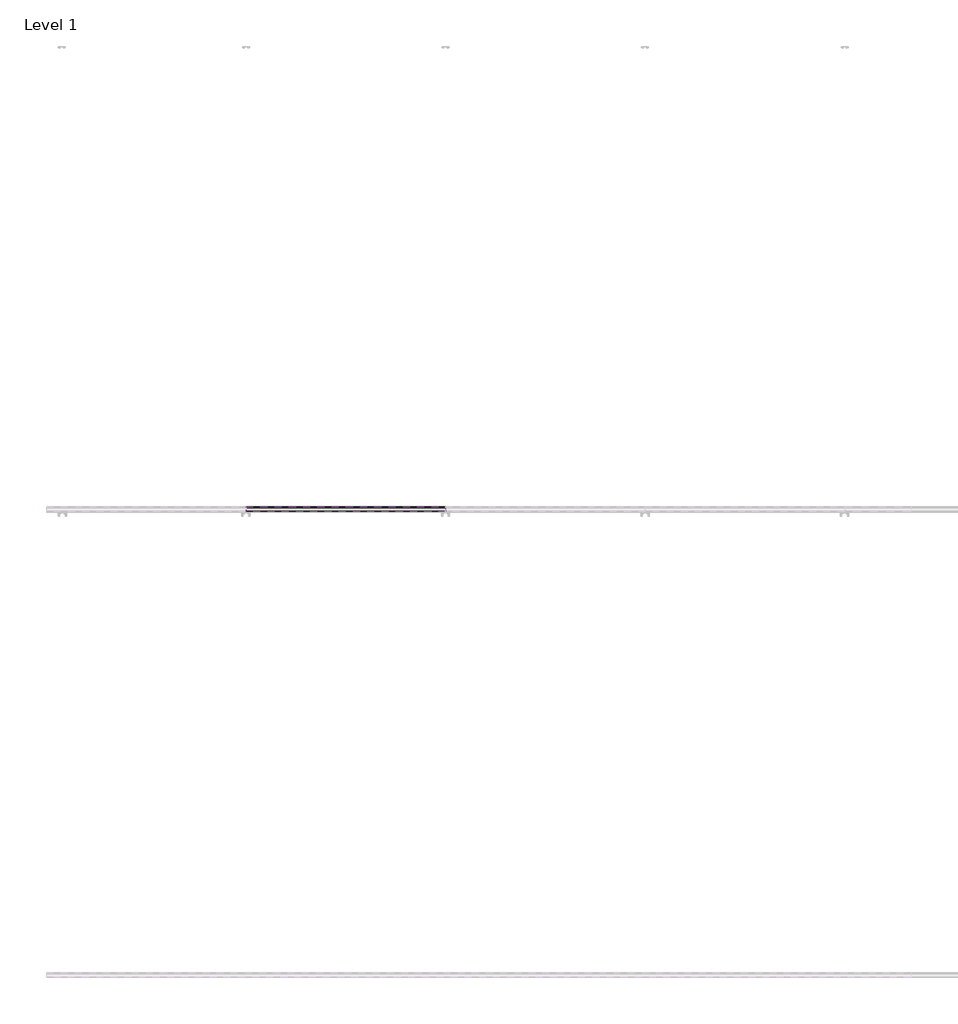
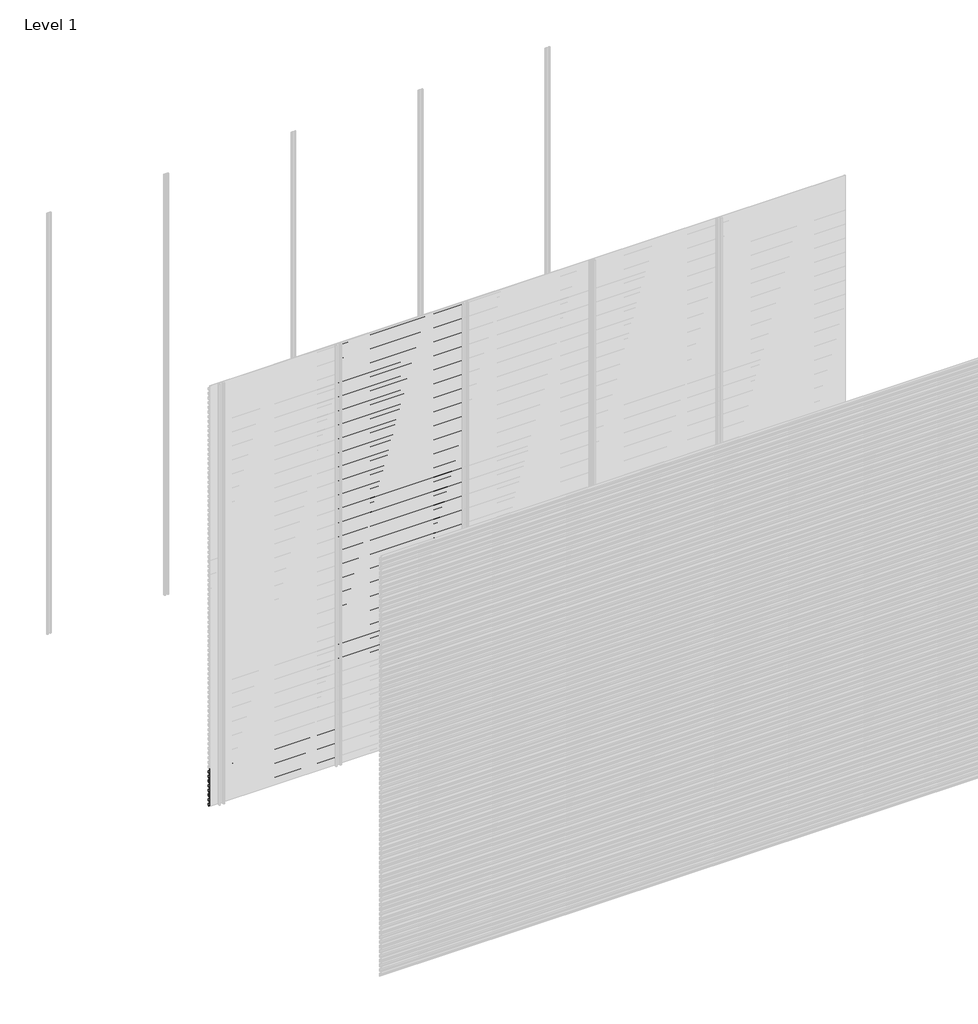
# One storey, part 81 of 96: 77 proxies.
"""IFC4 building model written with IfcOpenShell, lengths in millimetres."""

import ifcopenshell
import ifcopenshell.guid

model = None  # the IFC model being written
_history = None  # IfcOwnerHistory: only IFC2X3 demands one
_inside = {}  # id of a spatial element -> (the spatial element, [elements in it])
_under = {}  # id of a project, library or spatial element -> (it, [spatial elements below it])
_declared = {}  # id of a project -> (the project, [libraries it declares])
_typed = {}  # id of a type object -> (the type object, [elements of that type])
_made_of = {}  # id of a material, layer set ... -> (it, [elements and type objects made of it])


def new_model(schema):
    """Start an empty IFC model of exactly this schema.

    Asked for "IFC4X3", IfcOpenShell would pick the latest addendum, in which some entities
    have other attributes; the version numbers below select the first issue.
    IFC2X3 requires an IfcOwnerHistory on every rooted entity: one is made here for all.
    """
    global model, _history
    if schema == "IFC4X3":
        model = ifcopenshell.file(schema_version=(4, 3, 0, 0))
    else:
        model = ifcopenshell.file(schema=schema)
    _inside.clear()
    _under.clear()
    _declared.clear()
    _typed.clear()
    _made_of.clear()
    _history = None
    if model.schema == "IFC2X3":
        org = make("IfcOrganization", Name="unknown")
        user = make(
            "IfcPersonAndOrganization",
            ThePerson=make("IfcPerson", FamilyName="unknown"),
            TheOrganization=org,
        )
        app = make(
            "IfcApplication",
            ApplicationDeveloper=org,
            Version="unknown",
            ApplicationFullName="unknown",
            ApplicationIdentifier="unknown",
        )
        _history = make(
            "IfcOwnerHistory",
            OwningUser=user,
            OwningApplication=app,
            ChangeAction="ADDED",
            CreationDate=0,
        )
    return model


def make(cls, **values):
    """One entity of the class cls with the attributes given. An attribute that is None is left unset."""
    return model.create_entity(
        cls, **{name: value for name, value in values.items() if value is not None}
    )


def rooted(cls, **values):
    """An entity with a GlobalId (a new one), such as an element, a storey or a relation."""
    return make(cls, GlobalId=ifcopenshell.guid.new(), OwnerHistory=_history, **values)


def si_unit(unit_type, name, prefix=None):
    """IfcSIUnit, for example si_unit("LENGTHUNIT", "METRE", prefix="MILLI")."""
    return make("IfcSIUnit", UnitType=unit_type, Prefix=prefix, Name=name)


def assignment(units):
    """IfcUnitAssignment: the units of a project."""
    return None if units is None else make("IfcUnitAssignment", Units=units)


def point(xyz):
    """IfcCartesianPoint."""
    return None if xyz is None else make("IfcCartesianPoint", Coordinates=xyz)


def direction(xyz):
    """IfcDirection."""
    return None if xyz is None else make("IfcDirection", DirectionRatios=xyz)


def frame(location, z_axis=None, x_axis=None):
    """IfcAxis2Placement3D, a coordinate frame: its origin and axes. An axis left out is left unset."""
    return make(
        "IfcAxis2Placement3D",
        Location=point(location),
        Axis=direction(z_axis),
        RefDirection=direction(x_axis),
    )


def origin():
    """The frame at (0, 0, 0) with its axes left unset."""
    return frame((0.0, 0.0, 0.0))


def place(relative_to, where):
    """IfcLocalPlacement: puts the frame where relative to a parent placement (None: the world)."""
    return make(
        "IfcLocalPlacement", PlacementRelTo=relative_to, RelativePlacement=where
    )


def context(
    kind, dimensions, precision=None, world=None, true_north=None, identifier=None
):
    """IfcGeometricRepresentationContext, for example the 3D "Model" context."""
    return make(
        "IfcGeometricRepresentationContext",
        ContextIdentifier=identifier,
        ContextType=kind,
        CoordinateSpaceDimension=dimensions,
        Precision=precision,
        WorldCoordinateSystem=world,
        TrueNorth=true_north,
    )


def project(units=None, contexts=None):
    """IfcProject with its units and contexts."""
    return rooted(
        "IfcProject",
        Name="project",
        RepresentationContexts=contexts,
        UnitsInContext=assignment(units),
    )


def spatial(cls, under=None, at=None, **own):
    """A site, building, storey or space (cls), placed at a placement, below another one or the project."""
    s = rooted(cls, ObjectPlacement=at, **own)
    if under is not None:
        _under.setdefault(under.id(), (under, []))[1].append(s)
    return s


def polyline(points):
    """IfcPolyline through the points."""
    return make("IfcPolyline", Points=[point(p) for p in points])


def outline(outer, holes=None, kind="AREA"):
    """IfcArbitraryClosedProfileDef: a profile drawn as a closed curve; with holes, ...WithVoids."""
    if holes is None:
        return make("IfcArbitraryClosedProfileDef", ProfileType=kind, OuterCurve=outer)
    return make(
        "IfcArbitraryProfileDefWithVoids",
        ProfileType=kind,
        OuterCurve=outer,
        InnerCurves=holes,
    )


def extrude(swept, where, along, depth):
    """IfcExtrudedAreaSolid: the profile swept, set in the frame where, extruded along a direction by depth."""
    return make(
        "IfcExtrudedAreaSolid",
        SweptArea=swept,
        Position=where,
        ExtrudedDirection=direction(along),
        Depth=depth,
    )


def shape(context_of_items, identifier, shape_type, items):
    """IfcShapeRepresentation: the items that make up one representation, for example the "Body"."""
    return make(
        "IfcShapeRepresentation",
        ContextOfItems=context_of_items,
        RepresentationIdentifier=identifier,
        RepresentationType=shape_type,
        Items=items,
    )


def made_of(thing, what):
    """Note that an element or type object is made of a material, layer set ...; save() writes the relation."""
    if what is not None:
        _made_of.setdefault(what.id(), (what, []))[1].append(thing)
    return thing


def element(
    cls,
    number,
    at=None,
    inside=None,
    cuts=None,
    type_object=None,
    material=None,
    context=None,
    identifier="Body",
    shape_type=None,
    held_by="IfcProductDefinitionShape",
    body=None,
    shapes=None,
    **own,
):
    """One element of the class cls, such as IfcWall. Its Tag is "e" and its number.

    at: its placement. inside: the storey or other place that contains it. cuts: it is an
    opening in that element (IfcRelVoidsElement). A single representation is given by context,
    identifier, shape_type and body (its items); several are given by shapes. held_by: the class
    of the entity that holds the representations. save() writes the other relations.
    """
    e = rooted(cls, Tag="e%d" % number, ObjectPlacement=at, **own)
    if body is not None:
        shapes = [shape(context, identifier, shape_type, body)]
    if shapes is not None:
        e.Representation = make(held_by, Representations=shapes)
    if inside is not None:
        _inside.setdefault(inside.id(), (inside, []))[1].append(e)
    if cuts is not None:
        rooted(
            "IfcRelVoidsElement", RelatingBuildingElement=cuts, RelatedOpeningElement=e
        )
    if type_object is not None:
        _typed.setdefault(type_object.id(), (type_object, []))[1].append(e)
    return made_of(e, material)


def aggregate(whole, parts):
    """IfcRelAggregates: a whole, such as a stair, and the parts it consists of."""
    return rooted("IfcRelAggregates", RelatingObject=whole, RelatedObjects=parts)


def save(model, path):
    """Write the relations noted so far, then the file.

    IfcRelAggregates (storeys below a building ...), IfcRelContainedInSpatialStructure (elements
    in a storey), IfcRelDefinesByType, IfcRelAssociatesMaterial and IfcRelDeclares: one each for
    every whole, place, type object, material and project.
    """
    for whole, parts in _under.values():
        aggregate(whole, parts)
    for where, things in _inside.values():
        rooted(
            "IfcRelContainedInSpatialStructure",
            RelatedElements=things,
            RelatingStructure=where,
        )
    for kind, things in _typed.values():
        rooted("IfcRelDefinesByType", RelatedObjects=things, RelatingType=kind)
    for what, things in _made_of.values():
        rooted("IfcRelAssociatesMaterial", RelatedObjects=things, RelatingMaterial=what)
    for by, libraries in _declared.values():
        rooted("IfcRelDeclares", RelatingContext=by, RelatedDefinitions=libraries)
    model.write(path)


model = new_model("IFC4")

# Units and contexts
model_context = context("Model", 3, world=origin())
ifc_project = project(units=[si_unit("LENGTHUNIT", "METRE", prefix="MILLI")], contexts=[model_context])

# Site, building, storey
site = spatial("IfcSite", under=ifc_project)
building = spatial("IfcBuilding", under=site)
storey = spatial("IfcBuildingStorey", under=building, Name="Level 1", Elevation=0.0)

# Proxies
placement = place(None, origin())
element("IfcBuildingElementProxy", 1, Name="Wall Sweeps", at=placement, inside=storey, context=model_context, shape_type="SweptSolid", body=[
    extrude(outline(polyline([(-5977.6, 241.1655033), (-5977.6, 226.8779188), (-5982.4114965, 224.1), (-5982.4114965, 225.3701706), (-5978.85, 227.4264016), (-5978.85, 240.4437382), (-5998.0, 251.5000799), (-5998.0, 266.4), (-5996.75, 266.4), (-5996.75, 252.2217609), (-5977.6, 241.1655033)])), frame((0.0, 0.0, 0.0), z_axis=(1.0, 0.0, 0.0), x_axis=(0.0, 1.0, 0.0)), (0.0, 0.0, 1.0), 857.1428571),
])
element("IfcBuildingElementProxy", 2, Name="Wall Sweeps", at=placement, inside=storey, context=model_context, shape_type="SweptSolid", body=[
    extrude(outline(polyline([(-5977.6, 207.8655033), (-5977.6, 193.5779188), (-5982.4114965, 190.8), (-5982.4114965, 192.0701706), (-5978.85, 194.1264016), (-5978.85, 207.1437382), (-5998.0, 218.2000799), (-5998.0, 233.1), (-5996.75, 233.1), (-5996.75, 218.9217609), (-5977.6, 207.8655033)])), frame((0.0, 0.0, 0.0), z_axis=(1.0, 0.0, 0.0), x_axis=(0.0, 1.0, 0.0)), (0.0, 0.0, 1.0), 857.1428571),
])
element("IfcBuildingElementProxy", 3, Name="Wall Sweeps", at=placement, inside=storey, context=model_context, shape_type="SweptSolid", body=[
    extrude(outline(polyline([(-5977.6, 174.5655033), (-5977.6, 160.2779188), (-5982.4114965, 157.5), (-5982.4114965, 158.7701706), (-5978.85, 160.8264016), (-5978.85, 173.8437382), (-5998.0, 184.9000799), (-5998.0, 199.8), (-5996.75, 199.8), (-5996.75, 185.6217609), (-5977.6, 174.5655033)])), frame((0.0, 0.0, 0.0), z_axis=(1.0, 0.0, 0.0), x_axis=(0.0, 1.0, 0.0)), (0.0, 0.0, 1.0), 857.1428571),
])
element("IfcBuildingElementProxy", 4, Name="Wall Sweeps", at=placement, inside=storey, context=model_context, shape_type="SweptSolid", body=[
    extrude(outline(polyline([(-5977.6, 141.2655033), (-5977.6, 126.9779188), (-5982.4114965, 124.2), (-5982.4114965, 125.4701706), (-5978.85, 127.5264016), (-5978.85, 140.5437382), (-5998.0, 151.6000799), (-5998.0, 166.5), (-5996.75, 166.5), (-5996.75, 152.3217609), (-5977.6, 141.2655033)])), frame((0.0, 0.0, 0.0), z_axis=(1.0, 0.0, 0.0), x_axis=(0.0, 1.0, 0.0)), (0.0, 0.0, 1.0), 857.1428571),
])
element("IfcBuildingElementProxy", 5, Name="Wall Sweeps", at=placement, inside=storey, context=model_context, shape_type="SweptSolid", body=[
    extrude(outline(polyline([(-5977.6, 107.9655033), (-5977.6, 93.6779188), (-5982.4114965, 90.9), (-5982.4114965, 92.1701706), (-5978.85, 94.2264016), (-5978.85, 107.2437382), (-5998.0, 118.3000799), (-5998.0, 133.2), (-5996.75, 133.2), (-5996.75, 119.0217609), (-5977.6, 107.9655033)])), frame((0.0, 0.0, 0.0), z_axis=(1.0, 0.0, 0.0), x_axis=(0.0, 1.0, 0.0)), (0.0, 0.0, 1.0), 857.1428571),
])
element("IfcBuildingElementProxy", 6, Name="Wall Sweeps", at=placement, inside=storey, context=model_context, shape_type="SweptSolid", body=[
    extrude(outline(polyline([(-5977.6, 74.6655033), (-5977.6, 60.3779188), (-5982.4114965, 57.6), (-5982.4114965, 58.8701706), (-5978.85, 60.9264016), (-5978.85, 73.9437382), (-5998.0, 85.0000799), (-5998.0, 99.9), (-5996.75, 99.9), (-5996.75, 85.7217609), (-5977.6, 74.6655033)])), frame((0.0, 0.0, 0.0), z_axis=(1.0, 0.0, 0.0), x_axis=(0.0, 1.0, 0.0)), (0.0, 0.0, 1.0), 857.1428571),
])
element("IfcBuildingElementProxy", 7, Name="Wall Sweeps", at=placement, inside=storey, context=model_context, shape_type="SweptSolid", body=[
    extrude(outline(polyline([(-5977.6, 41.3655033), (-5977.6, 27.0779188), (-5982.4114965, 24.3), (-5982.4114965, 25.5701706), (-5978.85, 27.6264016), (-5978.85, 40.6437382), (-5998.0, 51.7000799), (-5998.0, 66.6), (-5996.75, 66.6), (-5996.75, 52.4217609), (-5977.6, 41.3655033)])), frame((0.0, 0.0, 0.0), z_axis=(1.0, 0.0, 0.0), x_axis=(0.0, 1.0, 0.0)), (0.0, 0.0, 1.0), 857.1428571),
])
element("IfcBuildingElementProxy", 8, Name="Wall Sweeps", at=placement, inside=storey, context=model_context, shape_type="SweptSolid", body=[
    extrude(outline(polyline([(-5977.6, 8.0655033), (-5977.6, -6.2220812), (-5982.4114965, -9.0), (-5982.4114965, -7.7298294), (-5978.85, -5.6735984), (-5978.85, 7.3437382), (-5998.0, 18.4000799), (-5998.0, 33.3), (-5996.75, 33.3), (-5996.75, 19.1217609), (-5977.6, 8.0655033)])), frame((0.0, 0.0, 0.0), z_axis=(1.0, 0.0, 0.0), x_axis=(0.0, 1.0, 0.0)), (0.0, 0.0, 1.0), 857.1428571),
])
element("IfcBuildingElementProxy", 9, Name="Wall Sweeps", at=placement, inside=storey, context=model_context, shape_type="SweptSolid", body=[
    extrude(outline(polyline([(-5977.6, 2971.7655033), (-5977.6, 2957.4779188), (-5982.4114965, 2954.7), (-5982.4114965, 2955.9701706), (-5978.85, 2958.0264016), (-5978.85, 2971.0437382), (-5998.0, 2982.1000799), (-5998.0, 2997.0), (-5996.75, 2997.0), (-5996.75, 2982.8217609), (-5977.6, 2971.7655033)])), frame((857.1428571, 0.0, 0.0), z_axis=(1.0, 0.0, 0.0), x_axis=(0.0, 1.0, 0.0)), (0.0, 0.0, 1.0), 857.1428571),
])
element("IfcBuildingElementProxy", 10, Name="Wall Sweeps", at=placement, inside=storey, context=model_context, shape_type="SweptSolid", body=[
    extrude(outline(polyline([(-5977.6, 2938.4655033), (-5977.6, 2924.1779188), (-5982.4114965, 2921.4), (-5982.4114965, 2922.6701706), (-5978.85, 2924.7264016), (-5978.85, 2937.7437382), (-5998.0, 2948.8000799), (-5998.0, 2963.7), (-5996.75, 2963.7), (-5996.75, 2949.5217609), (-5977.6, 2938.4655033)])), frame((857.1428571, 0.0, 0.0), z_axis=(1.0, 0.0, 0.0), x_axis=(0.0, 1.0, 0.0)), (0.0, 0.0, 1.0), 857.1428571),
])
element("IfcBuildingElementProxy", 11, Name="Wall Sweeps", at=placement, inside=storey, context=model_context, shape_type="SweptSolid", body=[
    extrude(outline(polyline([(-5977.6, 2905.1655033), (-5977.6, 2890.8779188), (-5982.4114965, 2888.1), (-5982.4114965, 2889.3701706), (-5978.85, 2891.4264016), (-5978.85, 2904.4437382), (-5998.0, 2915.5000799), (-5998.0, 2930.4), (-5996.75, 2930.4), (-5996.75, 2916.2217609), (-5977.6, 2905.1655033)])), frame((857.1428571, 0.0, 0.0), z_axis=(1.0, 0.0, 0.0), x_axis=(0.0, 1.0, 0.0)), (0.0, 0.0, 1.0), 857.1428571),
])
element("IfcBuildingElementProxy", 12, Name="Wall Sweeps", at=placement, inside=storey, context=model_context, shape_type="SweptSolid", body=[
    extrude(outline(polyline([(-5977.6, 2871.8655033), (-5977.6, 2857.5779188), (-5982.4114965, 2854.8), (-5982.4114965, 2856.0701706), (-5978.85, 2858.1264016), (-5978.85, 2871.1437382), (-5998.0, 2882.2000799), (-5998.0, 2897.1), (-5996.75, 2897.1), (-5996.75, 2882.9217609), (-5977.6, 2871.8655033)])), frame((857.1428571, 0.0, 0.0), z_axis=(1.0, 0.0, 0.0), x_axis=(0.0, 1.0, 0.0)), (0.0, 0.0, 1.0), 857.1428571),
])
element("IfcBuildingElementProxy", 13, Name="Wall Sweeps", at=placement, inside=storey, context=model_context, shape_type="SweptSolid", body=[
    extrude(outline(polyline([(-5977.6, 2838.5655033), (-5977.6, 2824.2779188), (-5982.4114965, 2821.5), (-5982.4114965, 2822.7701706), (-5978.85, 2824.8264016), (-5978.85, 2837.8437382), (-5998.0, 2848.9000799), (-5998.0, 2863.8), (-5996.75, 2863.8), (-5996.75, 2849.6217609), (-5977.6, 2838.5655033)])), frame((857.1428571, 0.0, 0.0), z_axis=(1.0, 0.0, 0.0), x_axis=(0.0, 1.0, 0.0)), (0.0, 0.0, 1.0), 857.1428571),
])
element("IfcBuildingElementProxy", 14, Name="Wall Sweeps", at=placement, inside=storey, context=model_context, shape_type="SweptSolid", body=[
    extrude(outline(polyline([(-5977.6, 2805.2655033), (-5977.6, 2790.9779188), (-5982.4114965, 2788.2), (-5982.4114965, 2789.4701706), (-5978.85, 2791.5264016), (-5978.85, 2804.5437382), (-5998.0, 2815.6000799), (-5998.0, 2830.5), (-5996.75, 2830.5), (-5996.75, 2816.3217609), (-5977.6, 2805.2655033)])), frame((857.1428571, 0.0, 0.0), z_axis=(1.0, 0.0, 0.0), x_axis=(0.0, 1.0, 0.0)), (0.0, 0.0, 1.0), 857.1428571),
])
element("IfcBuildingElementProxy", 15, Name="Wall Sweeps", at=placement, inside=storey, context=model_context, shape_type="SweptSolid", body=[
    extrude(outline(polyline([(-5977.6, 2771.9655033), (-5977.6, 2757.6779188), (-5982.4114965, 2754.9), (-5982.4114965, 2756.1701706), (-5978.85, 2758.2264016), (-5978.85, 2771.2437382), (-5998.0, 2782.3000799), (-5998.0, 2797.2), (-5996.75, 2797.2), (-5996.75, 2783.0217609), (-5977.6, 2771.9655033)])), frame((857.1428571, 0.0, 0.0), z_axis=(1.0, 0.0, 0.0), x_axis=(0.0, 1.0, 0.0)), (0.0, 0.0, 1.0), 857.1428571),
])
element("IfcBuildingElementProxy", 16, Name="Wall Sweeps", at=placement, inside=storey, context=model_context, shape_type="SweptSolid", body=[
    extrude(outline(polyline([(-5977.6, 2738.6655033), (-5977.6, 2724.3779188), (-5982.4114965, 2721.6), (-5982.4114965, 2722.8701706), (-5978.85, 2724.9264016), (-5978.85, 2737.9437382), (-5998.0, 2749.0000799), (-5998.0, 2763.9), (-5996.75, 2763.9), (-5996.75, 2749.7217609), (-5977.6, 2738.6655033)])), frame((857.1428571, 0.0, 0.0), z_axis=(1.0, 0.0, 0.0), x_axis=(0.0, 1.0, 0.0)), (0.0, 0.0, 1.0), 857.1428571),
])
element("IfcBuildingElementProxy", 17, Name="Wall Sweeps", at=placement, inside=storey, context=model_context, shape_type="SweptSolid", body=[
    extrude(outline(polyline([(-5977.6, 2705.3655033), (-5977.6, 2691.0779188), (-5982.4114965, 2688.3), (-5982.4114965, 2689.5701706), (-5978.85, 2691.6264016), (-5978.85, 2704.6437382), (-5998.0, 2715.7000799), (-5998.0, 2730.6), (-5996.75, 2730.6), (-5996.75, 2716.4217609), (-5977.6, 2705.3655033)])), frame((857.1428571, 0.0, 0.0), z_axis=(1.0, 0.0, 0.0), x_axis=(0.0, 1.0, 0.0)), (0.0, 0.0, 1.0), 857.1428571),
])
element("IfcBuildingElementProxy", 18, Name="Wall Sweeps", at=placement, inside=storey, context=model_context, shape_type="SweptSolid", body=[
    extrude(outline(polyline([(-5977.6, 2672.0655033), (-5977.6, 2657.7779188), (-5982.4114965, 2655.0), (-5982.4114965, 2656.2701706), (-5978.85, 2658.3264016), (-5978.85, 2671.3437382), (-5998.0, 2682.4000799), (-5998.0, 2697.3), (-5996.75, 2697.3), (-5996.75, 2683.1217609), (-5977.6, 2672.0655033)])), frame((857.1428571, 0.0, 0.0), z_axis=(1.0, 0.0, 0.0), x_axis=(0.0, 1.0, 0.0)), (0.0, 0.0, 1.0), 857.1428571),
])
element("IfcBuildingElementProxy", 19, Name="Wall Sweeps", at=placement, inside=storey, context=model_context, shape_type="SweptSolid", body=[
    extrude(outline(polyline([(-5977.6, 2638.7655033), (-5977.6, 2624.4779188), (-5982.4114965, 2621.7), (-5982.4114965, 2622.9701706), (-5978.85, 2625.0264016), (-5978.85, 2638.0437382), (-5998.0, 2649.1000799), (-5998.0, 2664.0), (-5996.75, 2664.0), (-5996.75, 2649.8217609), (-5977.6, 2638.7655033)])), frame((857.1428571, 0.0, 0.0), z_axis=(1.0, 0.0, 0.0), x_axis=(0.0, 1.0, 0.0)), (0.0, 0.0, 1.0), 857.1428571),
])
element("IfcBuildingElementProxy", 20, Name="Wall Sweeps", at=placement, inside=storey, context=model_context, shape_type="SweptSolid", body=[
    extrude(outline(polyline([(-5977.6, 2605.4655033), (-5977.6, 2591.1779188), (-5982.4114965, 2588.4), (-5982.4114965, 2589.6701706), (-5978.85, 2591.7264016), (-5978.85, 2604.7437382), (-5998.0, 2615.8000799), (-5998.0, 2630.7), (-5996.75, 2630.7), (-5996.75, 2616.5217609), (-5977.6, 2605.4655033)])), frame((857.1428571, 0.0, 0.0), z_axis=(1.0, 0.0, 0.0), x_axis=(0.0, 1.0, 0.0)), (0.0, 0.0, 1.0), 857.1428571),
])
element("IfcBuildingElementProxy", 21, Name="Wall Sweeps", at=placement, inside=storey, context=model_context, shape_type="SweptSolid", body=[
    extrude(outline(polyline([(-5977.6, 2572.1655033), (-5977.6, 2557.8779188), (-5982.4114965, 2555.1), (-5982.4114965, 2556.3701706), (-5978.85, 2558.4264016), (-5978.85, 2571.4437382), (-5998.0, 2582.5000799), (-5998.0, 2597.4), (-5996.75, 2597.4), (-5996.75, 2583.2217609), (-5977.6, 2572.1655033)])), frame((857.1428571, 0.0, 0.0), z_axis=(1.0, 0.0, 0.0), x_axis=(0.0, 1.0, 0.0)), (0.0, 0.0, 1.0), 857.1428571),
])
element("IfcBuildingElementProxy", 22, Name="Wall Sweeps", at=placement, inside=storey, context=model_context, shape_type="SweptSolid", body=[
    extrude(outline(polyline([(-5977.6, 2538.8655033), (-5977.6, 2524.5779188), (-5982.4114965, 2521.8), (-5982.4114965, 2523.0701706), (-5978.85, 2525.1264016), (-5978.85, 2538.1437382), (-5998.0, 2549.2000799), (-5998.0, 2564.1), (-5996.75, 2564.1), (-5996.75, 2549.9217609), (-5977.6, 2538.8655033)])), frame((857.1428571, 0.0, 0.0), z_axis=(1.0, 0.0, 0.0), x_axis=(0.0, 1.0, 0.0)), (0.0, 0.0, 1.0), 857.1428571),
])
element("IfcBuildingElementProxy", 23, Name="Wall Sweeps", at=placement, inside=storey, context=model_context, shape_type="SweptSolid", body=[
    extrude(outline(polyline([(-5977.6, 2505.5655033), (-5977.6, 2491.2779188), (-5982.4114965, 2488.5), (-5982.4114965, 2489.7701706), (-5978.85, 2491.8264016), (-5978.85, 2504.8437382), (-5998.0, 2515.9000799), (-5998.0, 2530.8), (-5996.75, 2530.8), (-5996.75, 2516.6217609), (-5977.6, 2505.5655033)])), frame((857.1428571, 0.0, 0.0), z_axis=(1.0, 0.0, 0.0), x_axis=(0.0, 1.0, 0.0)), (0.0, 0.0, 1.0), 857.1428571),
])
element("IfcBuildingElementProxy", 24, Name="Wall Sweeps", at=placement, inside=storey, context=model_context, shape_type="SweptSolid", body=[
    extrude(outline(polyline([(-5977.6, 2472.2655033), (-5977.6, 2457.9779188), (-5982.4114965, 2455.2), (-5982.4114965, 2456.4701706), (-5978.85, 2458.5264016), (-5978.85, 2471.5437382), (-5998.0, 2482.6000799), (-5998.0, 2497.5), (-5996.75, 2497.5), (-5996.75, 2483.3217609), (-5977.6, 2472.2655033)])), frame((857.1428571, 0.0, 0.0), z_axis=(1.0, 0.0, 0.0), x_axis=(0.0, 1.0, 0.0)), (0.0, 0.0, 1.0), 857.1428571),
])
element("IfcBuildingElementProxy", 25, Name="Wall Sweeps", at=placement, inside=storey, context=model_context, shape_type="SweptSolid", body=[
    extrude(outline(polyline([(-5977.6, 2438.9655033), (-5977.6, 2424.6779188), (-5982.4114965, 2421.9), (-5982.4114965, 2423.1701706), (-5978.85, 2425.2264016), (-5978.85, 2438.2437382), (-5998.0, 2449.3000799), (-5998.0, 2464.2), (-5996.75, 2464.2), (-5996.75, 2450.0217609), (-5977.6, 2438.9655033)])), frame((857.1428571, 0.0, 0.0), z_axis=(1.0, 0.0, 0.0), x_axis=(0.0, 1.0, 0.0)), (0.0, 0.0, 1.0), 857.1428571),
])
element("IfcBuildingElementProxy", 26, Name="Wall Sweeps", at=placement, inside=storey, context=model_context, shape_type="SweptSolid", body=[
    extrude(outline(polyline([(-5977.6, 2405.6655033), (-5977.6, 2391.3779188), (-5982.4114965, 2388.6), (-5982.4114965, 2389.8701706), (-5978.85, 2391.9264016), (-5978.85, 2404.9437382), (-5998.0, 2416.0000799), (-5998.0, 2430.9), (-5996.75, 2430.9), (-5996.75, 2416.7217609), (-5977.6, 2405.6655033)])), frame((857.1428571, 0.0, 0.0), z_axis=(1.0, 0.0, 0.0), x_axis=(0.0, 1.0, 0.0)), (0.0, 0.0, 1.0), 857.1428571),
])
element("IfcBuildingElementProxy", 27, Name="Wall Sweeps", at=placement, inside=storey, context=model_context, shape_type="SweptSolid", body=[
    extrude(outline(polyline([(-5977.6, 2372.3655033), (-5977.6, 2358.0779188), (-5982.4114965, 2355.3), (-5982.4114965, 2356.5701706), (-5978.85, 2358.6264016), (-5978.85, 2371.6437382), (-5998.0, 2382.7000799), (-5998.0, 2397.6), (-5996.75, 2397.6), (-5996.75, 2383.4217609), (-5977.6, 2372.3655033)])), frame((857.1428571, 0.0, 0.0), z_axis=(1.0, 0.0, 0.0), x_axis=(0.0, 1.0, 0.0)), (0.0, 0.0, 1.0), 857.1428571),
])
element("IfcBuildingElementProxy", 28, Name="Wall Sweeps", at=placement, inside=storey, context=model_context, shape_type="SweptSolid", body=[
    extrude(outline(polyline([(-5977.6, 2339.0655033), (-5977.6, 2324.7779188), (-5982.4114965, 2322.0), (-5982.4114965, 2323.2701706), (-5978.85, 2325.3264016), (-5978.85, 2338.3437382), (-5998.0, 2349.4000799), (-5998.0, 2364.3), (-5996.75, 2364.3), (-5996.75, 2350.1217609), (-5977.6, 2339.0655033)])), frame((857.1428571, 0.0, 0.0), z_axis=(1.0, 0.0, 0.0), x_axis=(0.0, 1.0, 0.0)), (0.0, 0.0, 1.0), 857.1428571),
])
element("IfcBuildingElementProxy", 29, Name="Wall Sweeps", at=placement, inside=storey, context=model_context, shape_type="SweptSolid", body=[
    extrude(outline(polyline([(-5977.6, 2305.7655033), (-5977.6, 2291.4779188), (-5982.4114965, 2288.7), (-5982.4114965, 2289.9701706), (-5978.85, 2292.0264016), (-5978.85, 2305.0437382), (-5998.0, 2316.1000799), (-5998.0, 2331.0), (-5996.75, 2331.0), (-5996.75, 2316.8217609), (-5977.6, 2305.7655033)])), frame((857.1428571, 0.0, 0.0), z_axis=(1.0, 0.0, 0.0), x_axis=(0.0, 1.0, 0.0)), (0.0, 0.0, 1.0), 857.1428571),
])
element("IfcBuildingElementProxy", 30, Name="Wall Sweeps", at=placement, inside=storey, context=model_context, shape_type="SweptSolid", body=[
    extrude(outline(polyline([(-5977.6, 2272.4655033), (-5977.6, 2258.1779188), (-5982.4114965, 2255.4), (-5982.4114965, 2256.6701706), (-5978.85, 2258.7264016), (-5978.85, 2271.7437382), (-5998.0, 2282.8000799), (-5998.0, 2297.7), (-5996.75, 2297.7), (-5996.75, 2283.5217609), (-5977.6, 2272.4655033)])), frame((857.1428571, 0.0, 0.0), z_axis=(1.0, 0.0, 0.0), x_axis=(0.0, 1.0, 0.0)), (0.0, 0.0, 1.0), 857.1428571),
])
element("IfcBuildingElementProxy", 31, Name="Wall Sweeps", at=placement, inside=storey, context=model_context, shape_type="SweptSolid", body=[
    extrude(outline(polyline([(-5977.6, 2239.1655033), (-5977.6, 2224.8779188), (-5982.4114965, 2222.1), (-5982.4114965, 2223.3701706), (-5978.85, 2225.4264016), (-5978.85, 2238.4437382), (-5998.0, 2249.5000799), (-5998.0, 2264.4), (-5996.75, 2264.4), (-5996.75, 2250.2217609), (-5977.6, 2239.1655033)])), frame((857.1428571, 0.0, 0.0), z_axis=(1.0, 0.0, 0.0), x_axis=(0.0, 1.0, 0.0)), (0.0, 0.0, 1.0), 857.1428571),
])
element("IfcBuildingElementProxy", 32, Name="Wall Sweeps", at=placement, inside=storey, context=model_context, shape_type="SweptSolid", body=[
    extrude(outline(polyline([(-5977.6, 2205.8655033), (-5977.6, 2191.5779188), (-5982.4114965, 2188.8), (-5982.4114965, 2190.0701706), (-5978.85, 2192.1264016), (-5978.85, 2205.1437382), (-5998.0, 2216.2000799), (-5998.0, 2231.1), (-5996.75, 2231.1), (-5996.75, 2216.9217609), (-5977.6, 2205.8655033)])), frame((857.1428571, 0.0, 0.0), z_axis=(1.0, 0.0, 0.0), x_axis=(0.0, 1.0, 0.0)), (0.0, 0.0, 1.0), 857.1428571),
])
element("IfcBuildingElementProxy", 33, Name="Wall Sweeps", at=placement, inside=storey, context=model_context, shape_type="SweptSolid", body=[
    extrude(outline(polyline([(-5977.6, 2172.5655033), (-5977.6, 2158.2779188), (-5982.4114965, 2155.5), (-5982.4114965, 2156.7701706), (-5978.85, 2158.8264016), (-5978.85, 2171.8437382), (-5998.0, 2182.9000799), (-5998.0, 2197.8), (-5996.75, 2197.8), (-5996.75, 2183.6217609), (-5977.6, 2172.5655033)])), frame((857.1428571, 0.0, 0.0), z_axis=(1.0, 0.0, 0.0), x_axis=(0.0, 1.0, 0.0)), (0.0, 0.0, 1.0), 857.1428571),
])
element("IfcBuildingElementProxy", 34, Name="Wall Sweeps", at=placement, inside=storey, context=model_context, shape_type="SweptSolid", body=[
    extrude(outline(polyline([(-5977.6, 2139.2655033), (-5977.6, 2124.9779188), (-5982.4114965, 2122.2), (-5982.4114965, 2123.4701706), (-5978.85, 2125.5264016), (-5978.85, 2138.5437382), (-5998.0, 2149.6000799), (-5998.0, 2164.5), (-5996.75, 2164.5), (-5996.75, 2150.3217609), (-5977.6, 2139.2655033)])), frame((857.1428571, 0.0, 0.0), z_axis=(1.0, 0.0, 0.0), x_axis=(0.0, 1.0, 0.0)), (0.0, 0.0, 1.0), 857.1428571),
])
element("IfcBuildingElementProxy", 35, Name="Wall Sweeps", at=placement, inside=storey, context=model_context, shape_type="SweptSolid", body=[
    extrude(outline(polyline([(-5977.6, 2105.9655033), (-5977.6, 2091.6779188), (-5982.4114965, 2088.9), (-5982.4114965, 2090.1701706), (-5978.85, 2092.2264016), (-5978.85, 2105.2437382), (-5998.0, 2116.3000799), (-5998.0, 2131.2), (-5996.75, 2131.2), (-5996.75, 2117.0217609), (-5977.6, 2105.9655033)])), frame((857.1428571, 0.0, 0.0), z_axis=(1.0, 0.0, 0.0), x_axis=(0.0, 1.0, 0.0)), (0.0, 0.0, 1.0), 857.1428571),
])
element("IfcBuildingElementProxy", 36, Name="Wall Sweeps", at=placement, inside=storey, context=model_context, shape_type="SweptSolid", body=[
    extrude(outline(polyline([(-5977.6, 2072.6655033), (-5977.6, 2058.3779188), (-5982.4114965, 2055.6), (-5982.4114965, 2056.8701706), (-5978.85, 2058.9264016), (-5978.85, 2071.9437382), (-5998.0, 2083.0000799), (-5998.0, 2097.9), (-5996.75, 2097.9), (-5996.75, 2083.7217609), (-5977.6, 2072.6655033)])), frame((857.1428571, 0.0, 0.0), z_axis=(1.0, 0.0, 0.0), x_axis=(0.0, 1.0, 0.0)), (0.0, 0.0, 1.0), 857.1428571),
])
element("IfcBuildingElementProxy", 37, Name="Wall Sweeps", at=placement, inside=storey, context=model_context, shape_type="SweptSolid", body=[
    extrude(outline(polyline([(-5977.6, 2039.3655033), (-5977.6, 2025.0779188), (-5982.4114965, 2022.3), (-5982.4114965, 2023.5701706), (-5978.85, 2025.6264016), (-5978.85, 2038.6437382), (-5998.0, 2049.7000799), (-5998.0, 2064.6), (-5996.75, 2064.6), (-5996.75, 2050.4217609), (-5977.6, 2039.3655033)])), frame((857.1428571, 0.0, 0.0), z_axis=(1.0, 0.0, 0.0), x_axis=(0.0, 1.0, 0.0)), (0.0, 0.0, 1.0), 857.1428571),
])
element("IfcBuildingElementProxy", 38, Name="Wall Sweeps", at=placement, inside=storey, context=model_context, shape_type="SweptSolid", body=[
    extrude(outline(polyline([(-5977.6, 2006.0655033), (-5977.6, 1991.7779188), (-5982.4114965, 1989.0), (-5982.4114965, 1990.2701706), (-5978.85, 1992.3264016), (-5978.85, 2005.3437382), (-5998.0, 2016.4000799), (-5998.0, 2031.3), (-5996.75, 2031.3), (-5996.75, 2017.1217609), (-5977.6, 2006.0655033)])), frame((857.1428571, 0.0, 0.0), z_axis=(1.0, 0.0, 0.0), x_axis=(0.0, 1.0, 0.0)), (0.0, 0.0, 1.0), 857.1428571),
])
element("IfcBuildingElementProxy", 39, Name="Wall Sweeps", at=placement, inside=storey, context=model_context, shape_type="SweptSolid", body=[
    extrude(outline(polyline([(-5977.6, 1972.7655033), (-5977.6, 1958.4779188), (-5982.4114965, 1955.7), (-5982.4114965, 1956.9701706), (-5978.85, 1959.0264016), (-5978.85, 1972.0437382), (-5998.0, 1983.1000799), (-5998.0, 1998.0), (-5996.75, 1998.0), (-5996.75, 1983.8217609), (-5977.6, 1972.7655033)])), frame((857.1428571, 0.0, 0.0), z_axis=(1.0, 0.0, 0.0), x_axis=(0.0, 1.0, 0.0)), (0.0, 0.0, 1.0), 857.1428571),
])
element("IfcBuildingElementProxy", 40, Name="Wall Sweeps", at=placement, inside=storey, context=model_context, shape_type="SweptSolid", body=[
    extrude(outline(polyline([(-5977.6, 1939.4655033), (-5977.6, 1925.1779188), (-5982.4114965, 1922.4), (-5982.4114965, 1923.6701706), (-5978.85, 1925.7264016), (-5978.85, 1938.7437382), (-5998.0, 1949.8000799), (-5998.0, 1964.7), (-5996.75, 1964.7), (-5996.75, 1950.5217609), (-5977.6, 1939.4655033)])), frame((857.1428571, 0.0, 0.0), z_axis=(1.0, 0.0, 0.0), x_axis=(0.0, 1.0, 0.0)), (0.0, 0.0, 1.0), 857.1428571),
])
element("IfcBuildingElementProxy", 41, Name="Wall Sweeps", at=placement, inside=storey, context=model_context, shape_type="SweptSolid", body=[
    extrude(outline(polyline([(-5977.6, 1906.1655033), (-5977.6, 1891.8779188), (-5982.4114965, 1889.1), (-5982.4114965, 1890.3701706), (-5978.85, 1892.4264016), (-5978.85, 1905.4437382), (-5998.0, 1916.5000799), (-5998.0, 1931.4), (-5996.75, 1931.4), (-5996.75, 1917.2217609), (-5977.6, 1906.1655033)])), frame((857.1428571, 0.0, 0.0), z_axis=(1.0, 0.0, 0.0), x_axis=(0.0, 1.0, 0.0)), (0.0, 0.0, 1.0), 857.1428571),
])
element("IfcBuildingElementProxy", 42, Name="Wall Sweeps", at=placement, inside=storey, context=model_context, shape_type="SweptSolid", body=[
    extrude(outline(polyline([(-5977.6, 1872.8655033), (-5977.6, 1858.5779188), (-5982.4114965, 1855.8), (-5982.4114965, 1857.0701706), (-5978.85, 1859.1264016), (-5978.85, 1872.1437382), (-5998.0, 1883.2000799), (-5998.0, 1898.1), (-5996.75, 1898.1), (-5996.75, 1883.9217609), (-5977.6, 1872.8655033)])), frame((857.1428571, 0.0, 0.0), z_axis=(1.0, 0.0, 0.0), x_axis=(0.0, 1.0, 0.0)), (0.0, 0.0, 1.0), 857.1428571),
])
element("IfcBuildingElementProxy", 43, Name="Wall Sweeps", at=placement, inside=storey, context=model_context, shape_type="SweptSolid", body=[
    extrude(outline(polyline([(-5977.6, 1839.5655033), (-5977.6, 1825.2779188), (-5982.4114965, 1822.5), (-5982.4114965, 1823.7701706), (-5978.85, 1825.8264016), (-5978.85, 1838.8437382), (-5998.0, 1849.9000799), (-5998.0, 1864.8), (-5996.75, 1864.8), (-5996.75, 1850.6217609), (-5977.6, 1839.5655033)])), frame((857.1428571, 0.0, 0.0), z_axis=(1.0, 0.0, 0.0), x_axis=(0.0, 1.0, 0.0)), (0.0, 0.0, 1.0), 857.1428571),
])
element("IfcBuildingElementProxy", 44, Name="Wall Sweeps", at=placement, inside=storey, context=model_context, shape_type="SweptSolid", body=[
    extrude(outline(polyline([(-5977.6, 1806.2655033), (-5977.6, 1791.9779188), (-5982.4114965, 1789.2), (-5982.4114965, 1790.4701706), (-5978.85, 1792.5264016), (-5978.85, 1805.5437382), (-5998.0, 1816.6000799), (-5998.0, 1831.5), (-5996.75, 1831.5), (-5996.75, 1817.3217609), (-5977.6, 1806.2655033)])), frame((857.1428571, 0.0, 0.0), z_axis=(1.0, 0.0, 0.0), x_axis=(0.0, 1.0, 0.0)), (0.0, 0.0, 1.0), 857.1428571),
])
element("IfcBuildingElementProxy", 45, Name="Wall Sweeps", at=placement, inside=storey, context=model_context, shape_type="SweptSolid", body=[
    extrude(outline(polyline([(-5977.6, 1772.9655033), (-5977.6, 1758.6779188), (-5982.4114965, 1755.9), (-5982.4114965, 1757.1701706), (-5978.85, 1759.2264016), (-5978.85, 1772.2437382), (-5998.0, 1783.3000799), (-5998.0, 1798.2), (-5996.75, 1798.2), (-5996.75, 1784.0217609), (-5977.6, 1772.9655033)])), frame((857.1428571, 0.0, 0.0), z_axis=(1.0, 0.0, 0.0), x_axis=(0.0, 1.0, 0.0)), (0.0, 0.0, 1.0), 857.1428571),
])
element("IfcBuildingElementProxy", 46, Name="Wall Sweeps", at=placement, inside=storey, context=model_context, shape_type="SweptSolid", body=[
    extrude(outline(polyline([(-5977.6, 1739.6655033), (-5977.6, 1725.3779188), (-5982.4114965, 1722.6), (-5982.4114965, 1723.8701706), (-5978.85, 1725.9264016), (-5978.85, 1738.9437382), (-5998.0, 1750.0000799), (-5998.0, 1764.9), (-5996.75, 1764.9), (-5996.75, 1750.7217609), (-5977.6, 1739.6655033)])), frame((857.1428571, 0.0, 0.0), z_axis=(1.0, 0.0, 0.0), x_axis=(0.0, 1.0, 0.0)), (0.0, 0.0, 1.0), 857.1428571),
])
element("IfcBuildingElementProxy", 47, Name="Wall Sweeps", at=placement, inside=storey, context=model_context, shape_type="SweptSolid", body=[
    extrude(outline(polyline([(-5977.6, 1706.3655033), (-5977.6, 1692.0779188), (-5982.4114965, 1689.3), (-5982.4114965, 1690.5701706), (-5978.85, 1692.6264016), (-5978.85, 1705.6437382), (-5998.0, 1716.7000799), (-5998.0, 1731.6), (-5996.75, 1731.6), (-5996.75, 1717.4217609), (-5977.6, 1706.3655033)])), frame((857.1428571, 0.0, 0.0), z_axis=(1.0, 0.0, 0.0), x_axis=(0.0, 1.0, 0.0)), (0.0, 0.0, 1.0), 857.1428571),
])
element("IfcBuildingElementProxy", 48, Name="Wall Sweeps", at=placement, inside=storey, context=model_context, shape_type="SweptSolid", body=[
    extrude(outline(polyline([(-5977.6, 1673.0655033), (-5977.6, 1658.7779188), (-5982.4114965, 1656.0), (-5982.4114965, 1657.2701706), (-5978.85, 1659.3264016), (-5978.85, 1672.3437382), (-5998.0, 1683.4000799), (-5998.0, 1698.3), (-5996.75, 1698.3), (-5996.75, 1684.1217609), (-5977.6, 1673.0655033)])), frame((857.1428571, 0.0, 0.0), z_axis=(1.0, 0.0, 0.0), x_axis=(0.0, 1.0, 0.0)), (0.0, 0.0, 1.0), 857.1428571),
])
element("IfcBuildingElementProxy", 49, Name="Wall Sweeps", at=placement, inside=storey, context=model_context, shape_type="SweptSolid", body=[
    extrude(outline(polyline([(-5977.6, 1639.7655033), (-5977.6, 1625.4779188), (-5982.4114965, 1622.7), (-5982.4114965, 1623.9701706), (-5978.85, 1626.0264016), (-5978.85, 1639.0437382), (-5998.0, 1650.1000799), (-5998.0, 1665.0), (-5996.75, 1665.0), (-5996.75, 1650.8217609), (-5977.6, 1639.7655033)])), frame((857.1428571, 0.0, 0.0), z_axis=(1.0, 0.0, 0.0), x_axis=(0.0, 1.0, 0.0)), (0.0, 0.0, 1.0), 857.1428571),
])
element("IfcBuildingElementProxy", 50, Name="Wall Sweeps", at=placement, inside=storey, context=model_context, shape_type="SweptSolid", body=[
    extrude(outline(polyline([(-5977.6, 1606.4655033), (-5977.6, 1592.1779188), (-5982.4114965, 1589.4), (-5982.4114965, 1590.6701706), (-5978.85, 1592.7264016), (-5978.85, 1605.7437382), (-5998.0, 1616.8000799), (-5998.0, 1631.7), (-5996.75, 1631.7), (-5996.75, 1617.5217609), (-5977.6, 1606.4655033)])), frame((857.1428571, 0.0, 0.0), z_axis=(1.0, 0.0, 0.0), x_axis=(0.0, 1.0, 0.0)), (0.0, 0.0, 1.0), 857.1428571),
])
element("IfcBuildingElementProxy", 51, Name="Wall Sweeps", at=placement, inside=storey, context=model_context, shape_type="SweptSolid", body=[
    extrude(outline(polyline([(-5977.6, 1573.1655033), (-5977.6, 1558.8779188), (-5982.4114965, 1556.1), (-5982.4114965, 1557.3701706), (-5978.85, 1559.4264016), (-5978.85, 1572.4437382), (-5998.0, 1583.5000799), (-5998.0, 1598.4), (-5996.75, 1598.4), (-5996.75, 1584.2217609), (-5977.6, 1573.1655033)])), frame((857.1428571, 0.0, 0.0), z_axis=(1.0, 0.0, 0.0), x_axis=(0.0, 1.0, 0.0)), (0.0, 0.0, 1.0), 857.1428571),
])
element("IfcBuildingElementProxy", 52, Name="Wall Sweeps", at=placement, inside=storey, context=model_context, shape_type="SweptSolid", body=[
    extrude(outline(polyline([(-5977.6, 1539.8655033), (-5977.6, 1525.5779188), (-5982.4114965, 1522.8), (-5982.4114965, 1524.0701706), (-5978.85, 1526.1264016), (-5978.85, 1539.1437382), (-5998.0, 1550.2000799), (-5998.0, 1565.1), (-5996.75, 1565.1), (-5996.75, 1550.9217609), (-5977.6, 1539.8655033)])), frame((857.1428571, 0.0, 0.0), z_axis=(1.0, 0.0, 0.0), x_axis=(0.0, 1.0, 0.0)), (0.0, 0.0, 1.0), 857.1428571),
])
element("IfcBuildingElementProxy", 53, Name="Wall Sweeps", at=placement, inside=storey, context=model_context, shape_type="SweptSolid", body=[
    extrude(outline(polyline([(-5977.6, 1506.5655033), (-5977.6, 1492.2779188), (-5982.4114965, 1489.5), (-5982.4114965, 1490.7701706), (-5978.85, 1492.8264016), (-5978.85, 1505.8437382), (-5998.0, 1516.9000799), (-5998.0, 1531.8), (-5996.75, 1531.8), (-5996.75, 1517.6217609), (-5977.6, 1506.5655033)])), frame((857.1428571, 0.0, 0.0), z_axis=(1.0, 0.0, 0.0), x_axis=(0.0, 1.0, 0.0)), (0.0, 0.0, 1.0), 857.1428571),
])
element("IfcBuildingElementProxy", 54, Name="Wall Sweeps", at=placement, inside=storey, context=model_context, shape_type="SweptSolid", body=[
    extrude(outline(polyline([(-5977.6, 1473.2655033), (-5977.6, 1458.9779188), (-5982.4114965, 1456.2), (-5982.4114965, 1457.4701706), (-5978.85, 1459.5264016), (-5978.85, 1472.5437382), (-5998.0, 1483.6000799), (-5998.0, 1498.5), (-5996.75, 1498.5), (-5996.75, 1484.3217609), (-5977.6, 1473.2655033)])), frame((857.1428571, 0.0, 0.0), z_axis=(1.0, 0.0, 0.0), x_axis=(0.0, 1.0, 0.0)), (0.0, 0.0, 1.0), 857.1428571),
])
element("IfcBuildingElementProxy", 55, Name="Wall Sweeps", at=placement, inside=storey, context=model_context, shape_type="SweptSolid", body=[
    extrude(outline(polyline([(-5977.6, 1439.9655033), (-5977.6, 1425.6779188), (-5982.4114965, 1422.9), (-5982.4114965, 1424.1701706), (-5978.85, 1426.2264016), (-5978.85, 1439.2437382), (-5998.0, 1450.3000799), (-5998.0, 1465.2), (-5996.75, 1465.2), (-5996.75, 1451.0217609), (-5977.6, 1439.9655033)])), frame((857.1428571, 0.0, 0.0), z_axis=(1.0, 0.0, 0.0), x_axis=(0.0, 1.0, 0.0)), (0.0, 0.0, 1.0), 857.1428571),
])
element("IfcBuildingElementProxy", 56, Name="Wall Sweeps", at=placement, inside=storey, context=model_context, shape_type="SweptSolid", body=[
    extrude(outline(polyline([(-5977.6, 1406.6655033), (-5977.6, 1392.3779188), (-5982.4114965, 1389.6), (-5982.4114965, 1390.8701706), (-5978.85, 1392.9264016), (-5978.85, 1405.9437382), (-5998.0, 1417.0000799), (-5998.0, 1431.9), (-5996.75, 1431.9), (-5996.75, 1417.7217609), (-5977.6, 1406.6655033)])), frame((857.1428571, 0.0, 0.0), z_axis=(1.0, 0.0, 0.0), x_axis=(0.0, 1.0, 0.0)), (0.0, 0.0, 1.0), 857.1428571),
])
element("IfcBuildingElementProxy", 57, Name="Wall Sweeps", at=placement, inside=storey, context=model_context, shape_type="SweptSolid", body=[
    extrude(outline(polyline([(-5977.6, 1373.3655033), (-5977.6, 1359.0779188), (-5982.4114965, 1356.3), (-5982.4114965, 1357.5701706), (-5978.85, 1359.6264016), (-5978.85, 1372.6437382), (-5998.0, 1383.7000799), (-5998.0, 1398.6), (-5996.75, 1398.6), (-5996.75, 1384.4217609), (-5977.6, 1373.3655033)])), frame((857.1428571, 0.0, 0.0), z_axis=(1.0, 0.0, 0.0), x_axis=(0.0, 1.0, 0.0)), (0.0, 0.0, 1.0), 857.1428571),
])
element("IfcBuildingElementProxy", 58, Name="Wall Sweeps", at=placement, inside=storey, context=model_context, shape_type="SweptSolid", body=[
    extrude(outline(polyline([(-5977.6, 1340.0655033), (-5977.6, 1325.7779188), (-5982.4114965, 1323.0), (-5982.4114965, 1324.2701706), (-5978.85, 1326.3264016), (-5978.85, 1339.3437382), (-5998.0, 1350.4000799), (-5998.0, 1365.3), (-5996.75, 1365.3), (-5996.75, 1351.1217609), (-5977.6, 1340.0655033)])), frame((857.1428571, 0.0, 0.0), z_axis=(1.0, 0.0, 0.0), x_axis=(0.0, 1.0, 0.0)), (0.0, 0.0, 1.0), 857.1428571),
])
element("IfcBuildingElementProxy", 59, Name="Wall Sweeps", at=placement, inside=storey, context=model_context, shape_type="SweptSolid", body=[
    extrude(outline(polyline([(-5977.6, 1306.7655033), (-5977.6, 1292.4779188), (-5982.4114965, 1289.7), (-5982.4114965, 1290.9701706), (-5978.85, 1293.0264016), (-5978.85, 1306.0437382), (-5998.0, 1317.1000799), (-5998.0, 1332.0), (-5996.75, 1332.0), (-5996.75, 1317.8217609), (-5977.6, 1306.7655033)])), frame((857.1428571, 0.0, 0.0), z_axis=(1.0, 0.0, 0.0), x_axis=(0.0, 1.0, 0.0)), (0.0, 0.0, 1.0), 857.1428571),
])
element("IfcBuildingElementProxy", 60, Name="Wall Sweeps", at=placement, inside=storey, context=model_context, shape_type="SweptSolid", body=[
    extrude(outline(polyline([(-5977.6, 1273.4655033), (-5977.6, 1259.1779188), (-5982.4114965, 1256.4), (-5982.4114965, 1257.6701706), (-5978.85, 1259.7264016), (-5978.85, 1272.7437382), (-5998.0, 1283.8000799), (-5998.0, 1298.7), (-5996.75, 1298.7), (-5996.75, 1284.5217609), (-5977.6, 1273.4655033)])), frame((857.1428571, 0.0, 0.0), z_axis=(1.0, 0.0, 0.0), x_axis=(0.0, 1.0, 0.0)), (0.0, 0.0, 1.0), 857.1428571),
])
element("IfcBuildingElementProxy", 61, Name="Wall Sweeps", at=placement, inside=storey, context=model_context, shape_type="SweptSolid", body=[
    extrude(outline(polyline([(-5977.6, 1240.1655033), (-5977.6, 1225.8779188), (-5982.4114965, 1223.1), (-5982.4114965, 1224.3701706), (-5978.85, 1226.4264016), (-5978.85, 1239.4437382), (-5998.0, 1250.5000799), (-5998.0, 1265.4), (-5996.75, 1265.4), (-5996.75, 1251.2217609), (-5977.6, 1240.1655033)])), frame((857.1428571, 0.0, 0.0), z_axis=(1.0, 0.0, 0.0), x_axis=(0.0, 1.0, 0.0)), (0.0, 0.0, 1.0), 857.1428571),
])
element("IfcBuildingElementProxy", 62, Name="Wall Sweeps", at=placement, inside=storey, context=model_context, shape_type="SweptSolid", body=[
    extrude(outline(polyline([(-5977.6, 1206.8655033), (-5977.6, 1192.5779188), (-5982.4114965, 1189.8), (-5982.4114965, 1191.0701706), (-5978.85, 1193.1264016), (-5978.85, 1206.1437382), (-5998.0, 1217.2000799), (-5998.0, 1232.1), (-5996.75, 1232.1), (-5996.75, 1217.9217609), (-5977.6, 1206.8655033)])), frame((857.1428571, 0.0, 0.0), z_axis=(1.0, 0.0, 0.0), x_axis=(0.0, 1.0, 0.0)), (0.0, 0.0, 1.0), 857.1428571),
])
element("IfcBuildingElementProxy", 63, Name="Wall Sweeps", at=placement, inside=storey, context=model_context, shape_type="SweptSolid", body=[
    extrude(outline(polyline([(-5977.6, 1173.5655033), (-5977.6, 1159.2779188), (-5982.4114965, 1156.5), (-5982.4114965, 1157.7701706), (-5978.85, 1159.8264016), (-5978.85, 1172.8437382), (-5998.0, 1183.9000799), (-5998.0, 1198.8), (-5996.75, 1198.8), (-5996.75, 1184.6217609), (-5977.6, 1173.5655033)])), frame((857.1428571, 0.0, 0.0), z_axis=(1.0, 0.0, 0.0), x_axis=(0.0, 1.0, 0.0)), (0.0, 0.0, 1.0), 857.1428571),
])
element("IfcBuildingElementProxy", 64, Name="Wall Sweeps", at=placement, inside=storey, context=model_context, shape_type="SweptSolid", body=[
    extrude(outline(polyline([(-5977.6, 1140.2655033), (-5977.6, 1125.9779188), (-5982.4114965, 1123.2), (-5982.4114965, 1124.4701706), (-5978.85, 1126.5264016), (-5978.85, 1139.5437382), (-5998.0, 1150.6000799), (-5998.0, 1165.5), (-5996.75, 1165.5), (-5996.75, 1151.3217609), (-5977.6, 1140.2655033)])), frame((857.1428571, 0.0, 0.0), z_axis=(1.0, 0.0, 0.0), x_axis=(0.0, 1.0, 0.0)), (0.0, 0.0, 1.0), 857.1428571),
])
element("IfcBuildingElementProxy", 65, Name="Wall Sweeps", at=placement, inside=storey, context=model_context, shape_type="SweptSolid", body=[
    extrude(outline(polyline([(-5977.6, 1106.9655033), (-5977.6, 1092.6779188), (-5982.4114965, 1089.9), (-5982.4114965, 1091.1701706), (-5978.85, 1093.2264016), (-5978.85, 1106.2437382), (-5998.0, 1117.3000799), (-5998.0, 1132.2), (-5996.75, 1132.2), (-5996.75, 1118.0217609), (-5977.6, 1106.9655033)])), frame((857.1428571, 0.0, 0.0), z_axis=(1.0, 0.0, 0.0), x_axis=(0.0, 1.0, 0.0)), (0.0, 0.0, 1.0), 857.1428571),
])
element("IfcBuildingElementProxy", 66, Name="Wall Sweeps", at=placement, inside=storey, context=model_context, shape_type="SweptSolid", body=[
    extrude(outline(polyline([(-5977.6, 1073.6655033), (-5977.6, 1059.3779188), (-5982.4114965, 1056.6), (-5982.4114965, 1057.8701706), (-5978.85, 1059.9264016), (-5978.85, 1072.9437382), (-5998.0, 1084.0000799), (-5998.0, 1098.9), (-5996.75, 1098.9), (-5996.75, 1084.7217609), (-5977.6, 1073.6655033)])), frame((857.1428571, 0.0, 0.0), z_axis=(1.0, 0.0, 0.0), x_axis=(0.0, 1.0, 0.0)), (0.0, 0.0, 1.0), 857.1428571),
])
element("IfcBuildingElementProxy", 67, Name="Wall Sweeps", at=placement, inside=storey, context=model_context, shape_type="SweptSolid", body=[
    extrude(outline(polyline([(-5977.6, 1040.3655033), (-5977.6, 1026.0779188), (-5982.4114965, 1023.3), (-5982.4114965, 1024.5701706), (-5978.85, 1026.6264016), (-5978.85, 1039.6437382), (-5998.0, 1050.7000799), (-5998.0, 1065.6), (-5996.75, 1065.6), (-5996.75, 1051.4217609), (-5977.6, 1040.3655033)])), frame((857.1428571, 0.0, 0.0), z_axis=(1.0, 0.0, 0.0), x_axis=(0.0, 1.0, 0.0)), (0.0, 0.0, 1.0), 857.1428571),
])
element("IfcBuildingElementProxy", 68, Name="Wall Sweeps", at=placement, inside=storey, context=model_context, shape_type="SweptSolid", body=[
    extrude(outline(polyline([(-5977.6, 1007.0655033), (-5977.6, 992.7779188), (-5982.4114965, 990.0), (-5982.4114965, 991.2701706), (-5978.85, 993.3264016), (-5978.85, 1006.3437382), (-5998.0, 1017.4000799), (-5998.0, 1032.3), (-5996.75, 1032.3), (-5996.75, 1018.1217609), (-5977.6, 1007.0655033)])), frame((857.1428571, 0.0, 0.0), z_axis=(1.0, 0.0, 0.0), x_axis=(0.0, 1.0, 0.0)), (0.0, 0.0, 1.0), 857.1428571),
])
element("IfcBuildingElementProxy", 69, Name="Wall Sweeps", at=placement, inside=storey, context=model_context, shape_type="SweptSolid", body=[
    extrude(outline(polyline([(-5977.6, 973.7655033), (-5977.6, 959.4779188), (-5982.4114965, 956.7), (-5982.4114965, 957.9701706), (-5978.85, 960.0264016), (-5978.85, 973.0437382), (-5998.0, 984.1000799), (-5998.0, 999.0), (-5996.75, 999.0), (-5996.75, 984.8217609), (-5977.6, 973.7655033)])), frame((857.1428571, 0.0, 0.0), z_axis=(1.0, 0.0, 0.0), x_axis=(0.0, 1.0, 0.0)), (0.0, 0.0, 1.0), 857.1428571),
])
element("IfcBuildingElementProxy", 70, Name="Wall Sweeps", at=placement, inside=storey, context=model_context, shape_type="SweptSolid", body=[
    extrude(outline(polyline([(-5977.6, 940.4655033), (-5977.6, 926.1779188), (-5982.4114965, 923.4), (-5982.4114965, 924.6701706), (-5978.85, 926.7264016), (-5978.85, 939.7437382), (-5998.0, 950.8000799), (-5998.0, 965.7), (-5996.75, 965.7), (-5996.75, 951.5217609), (-5977.6, 940.4655033)])), frame((857.1428571, 0.0, 0.0), z_axis=(1.0, 0.0, 0.0), x_axis=(0.0, 1.0, 0.0)), (0.0, 0.0, 1.0), 857.1428571),
])
element("IfcBuildingElementProxy", 71, Name="Wall Sweeps", at=placement, inside=storey, context=model_context, shape_type="SweptSolid", body=[
    extrude(outline(polyline([(-5977.6, 907.1655033), (-5977.6, 892.8779188), (-5982.4114965, 890.1), (-5982.4114965, 891.3701706), (-5978.85, 893.4264016), (-5978.85, 906.4437382), (-5998.0, 917.5000799), (-5998.0, 932.4), (-5996.75, 932.4), (-5996.75, 918.2217609), (-5977.6, 907.1655033)])), frame((857.1428571, 0.0, 0.0), z_axis=(1.0, 0.0, 0.0), x_axis=(0.0, 1.0, 0.0)), (0.0, 0.0, 1.0), 857.1428571),
])
element("IfcBuildingElementProxy", 72, Name="Wall Sweeps", at=placement, inside=storey, context=model_context, shape_type="SweptSolid", body=[
    extrude(outline(polyline([(-5977.6, 873.8655033), (-5977.6, 859.5779188), (-5982.4114965, 856.8), (-5982.4114965, 858.0701706), (-5978.85, 860.1264016), (-5978.85, 873.1437382), (-5998.0, 884.2000799), (-5998.0, 899.1), (-5996.75, 899.1), (-5996.75, 884.9217609), (-5977.6, 873.8655033)])), frame((857.1428571, 0.0, 0.0), z_axis=(1.0, 0.0, 0.0), x_axis=(0.0, 1.0, 0.0)), (0.0, 0.0, 1.0), 857.1428571),
])
element("IfcBuildingElementProxy", 73, Name="Wall Sweeps", at=placement, inside=storey, context=model_context, shape_type="SweptSolid", body=[
    extrude(outline(polyline([(-5977.6, 840.5655033), (-5977.6, 826.2779188), (-5982.4114965, 823.5), (-5982.4114965, 824.7701706), (-5978.85, 826.8264016), (-5978.85, 839.8437382), (-5998.0, 850.9000799), (-5998.0, 865.8), (-5996.75, 865.8), (-5996.75, 851.6217609), (-5977.6, 840.5655033)])), frame((857.1428571, 0.0, 0.0), z_axis=(1.0, 0.0, 0.0), x_axis=(0.0, 1.0, 0.0)), (0.0, 0.0, 1.0), 857.1428571),
])
element("IfcBuildingElementProxy", 74, Name="Wall Sweeps", at=placement, inside=storey, context=model_context, shape_type="SweptSolid", body=[
    extrude(outline(polyline([(-5977.6, 807.2655033), (-5977.6, 792.9779188), (-5982.4114965, 790.2), (-5982.4114965, 791.4701706), (-5978.85, 793.5264016), (-5978.85, 806.5437382), (-5998.0, 817.6000799), (-5998.0, 832.5), (-5996.75, 832.5), (-5996.75, 818.3217609), (-5977.6, 807.2655033)])), frame((857.1428571, 0.0, 0.0), z_axis=(1.0, 0.0, 0.0), x_axis=(0.0, 1.0, 0.0)), (0.0, 0.0, 1.0), 857.1428571),
])
element("IfcBuildingElementProxy", 75, Name="Wall Sweeps", at=placement, inside=storey, context=model_context, shape_type="SweptSolid", body=[
    extrude(outline(polyline([(-5977.6, 773.9655033), (-5977.6, 759.6779188), (-5982.4114965, 756.9), (-5982.4114965, 758.1701706), (-5978.85, 760.2264016), (-5978.85, 773.2437382), (-5998.0, 784.3000799), (-5998.0, 799.2), (-5996.75, 799.2), (-5996.75, 785.0217609), (-5977.6, 773.9655033)])), frame((857.1428571, 0.0, 0.0), z_axis=(1.0, 0.0, 0.0), x_axis=(0.0, 1.0, 0.0)), (0.0, 0.0, 1.0), 857.1428571),
])
element("IfcBuildingElementProxy", 76, Name="Wall Sweeps", at=placement, inside=storey, context=model_context, shape_type="SweptSolid", body=[
    extrude(outline(polyline([(-5977.6, 740.6655033), (-5977.6, 726.3779188), (-5982.4114965, 723.6), (-5982.4114965, 724.8701706), (-5978.85, 726.9264016), (-5978.85, 739.9437382), (-5998.0, 751.0000799), (-5998.0, 765.9), (-5996.75, 765.9), (-5996.75, 751.7217609), (-5977.6, 740.6655033)])), frame((857.1428571, 0.0, 0.0), z_axis=(1.0, 0.0, 0.0), x_axis=(0.0, 1.0, 0.0)), (0.0, 0.0, 1.0), 857.1428571),
])
element("IfcBuildingElementProxy", 77, Name="Wall Sweeps", at=placement, inside=storey, context=model_context, shape_type="SweptSolid", body=[
    extrude(outline(polyline([(-5977.6, 707.3655033), (-5977.6, 693.0779188), (-5982.4114965, 690.3), (-5982.4114965, 691.5701706), (-5978.85, 693.6264016), (-5978.85, 706.6437382), (-5998.0, 717.7000799), (-5998.0, 732.6), (-5996.75, 732.6), (-5996.75, 718.4217609), (-5977.6, 707.3655033)])), frame((857.1428571, 0.0, 0.0), z_axis=(1.0, 0.0, 0.0), x_axis=(0.0, 1.0, 0.0)), (0.0, 0.0, 1.0), 857.1428571),
])

save(model, "model.ifc")
